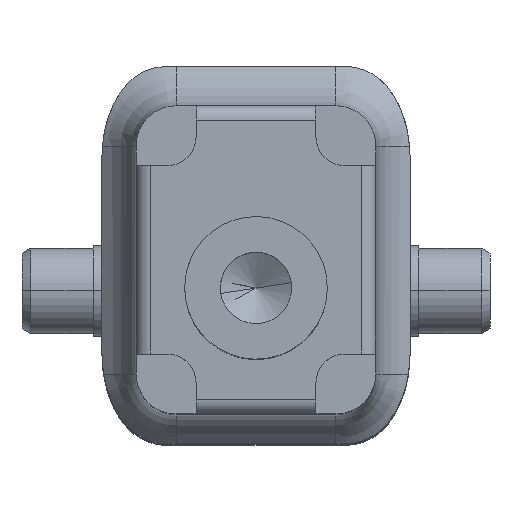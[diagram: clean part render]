
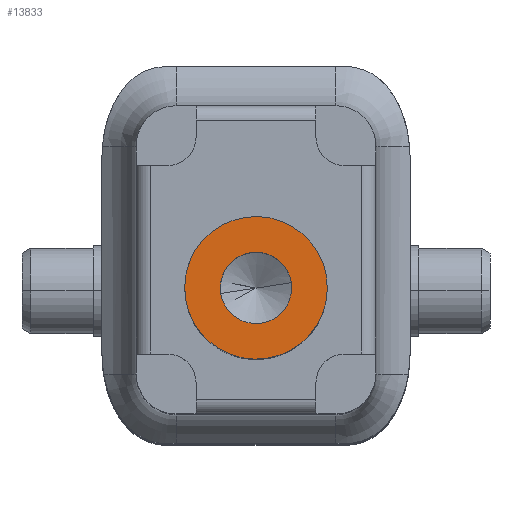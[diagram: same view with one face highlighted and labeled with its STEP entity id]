
A CAD part, top view. The second image highlights one B-rep face of the part: STEP entity #13833.
In plain terms, the highlighted planar face has unit normal (0, 0, 1) as drawn and (0, 0, -1) by its records, which use the part's own axes.
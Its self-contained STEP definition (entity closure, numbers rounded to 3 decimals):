
#79 = EDGE_LOOP ( 'NONE', ( #17776, #11056 ) ) ;
#2513 = CARTESIAN_POINT ( 'NONE',  ( 1.25, 0., 0. ) ) ;
#2569 = AXIS2_PLACEMENT_3D ( 'NONE', #6572, #15153, #3996 ) ;
#2593 = CARTESIAN_POINT ( 'NONE',  ( 0., 0., 0. ) ) ;
#3257 = CIRCLE ( 'NONE', #16837, 1.25 ) ;
#3721 = DIRECTION ( 'NONE',  ( 0., 0., -1. ) ) ;
#3996 = DIRECTION ( 'NONE',  ( 1., 0., 0. ) ) ;
#4033 = CIRCLE ( 'NONE', #6967, 1.25 ) ;
#4198 = CIRCLE ( 'NONE', #12137, 2.5 ) ;
#4563 = AXIS2_PLACEMENT_3D ( 'NONE', #2593, #12187, #8027 ) ;
#5198 = CARTESIAN_POINT ( 'NONE',  ( 0., 0., 0. ) ) ;
#5274 = FACE_OUTER_BOUND ( 'NONE', #13458, .T. ) ;
#5322 = EDGE_CURVE ( 'NONE', #12141, #16498, #3257, .T. ) ;
#6062 = EDGE_CURVE ( 'NONE', #6533, #7517, #4198, .T. ) ;
#6533 = VERTEX_POINT ( 'NONE', #17956 ) ;
#6572 = CARTESIAN_POINT ( 'NONE',  ( 0., 0., 0. ) ) ;
#6967 = AXIS2_PLACEMENT_3D ( 'NONE', #5198, #3721, #15151 ) ;
#7067 = CARTESIAN_POINT ( 'NONE',  ( 0., 0., 0. ) ) ;
#7517 = VERTEX_POINT ( 'NONE', #10671 ) ;
#7559 = CIRCLE ( 'NONE', #2569, 2.5 ) ;
#8027 = DIRECTION ( 'NONE',  ( 1., 0., 0. ) ) ;
#8448 = DIRECTION ( 'NONE',  ( 0., 0., -1. ) ) ;
#9455 = ORIENTED_EDGE ( 'NONE', *, *, #12635, .F. ) ;
#10671 = CARTESIAN_POINT ( 'NONE',  ( -2.5, 0., 0. ) ) ;
#11002 = DIRECTION ( 'NONE',  ( 0., 0., 1. ) ) ;
#11056 = ORIENTED_EDGE ( 'NONE', *, *, #11577, .F. ) ;
#11577 = EDGE_CURVE ( 'NONE', #16498, #12141, #4033, .T. ) ;
#11909 = ORIENTED_EDGE ( 'NONE', *, *, #6062, .F. ) ;
#12137 = AXIS2_PLACEMENT_3D ( 'NONE', #18118, #11002, #16627 ) ;
#12141 = VERTEX_POINT ( 'NONE', #13311 ) ;
#12187 = DIRECTION ( 'NONE',  ( 0., 0., 1. ) ) ;
#12635 = EDGE_CURVE ( 'NONE', #7517, #6533, #7559, .T. ) ;
#13311 = CARTESIAN_POINT ( 'NONE',  ( -1.25, 0., 0. ) ) ;
#13458 = EDGE_LOOP ( 'NONE', ( #9455, #11909 ) ) ;
#13833 = ADVANCED_FACE ( 'NONE', ( #15229, #5274 ), #15037, .F. ) ;
#14073 = DIRECTION ( 'NONE',  ( -1., 0., 0. ) ) ;
#15037 = PLANE ( 'NONE',  #4563 ) ;
#15151 = DIRECTION ( 'NONE',  ( -1., 0., 0. ) ) ;
#15153 = DIRECTION ( 'NONE',  ( 0., 0., 1. ) ) ;
#15229 = FACE_BOUND ( 'NONE', #79, .T. ) ;
#16498 = VERTEX_POINT ( 'NONE', #2513 ) ;
#16627 = DIRECTION ( 'NONE',  ( 1., 0., 0. ) ) ;
#16837 = AXIS2_PLACEMENT_3D ( 'NONE', #7067, #8448, #14073 ) ;
#17776 = ORIENTED_EDGE ( 'NONE', *, *, #5322, .F. ) ;
#17956 = CARTESIAN_POINT ( 'NONE',  ( 2.5, 0., 0. ) ) ;
#18118 = CARTESIAN_POINT ( 'NONE',  ( 0., 0., 0. ) ) ;
